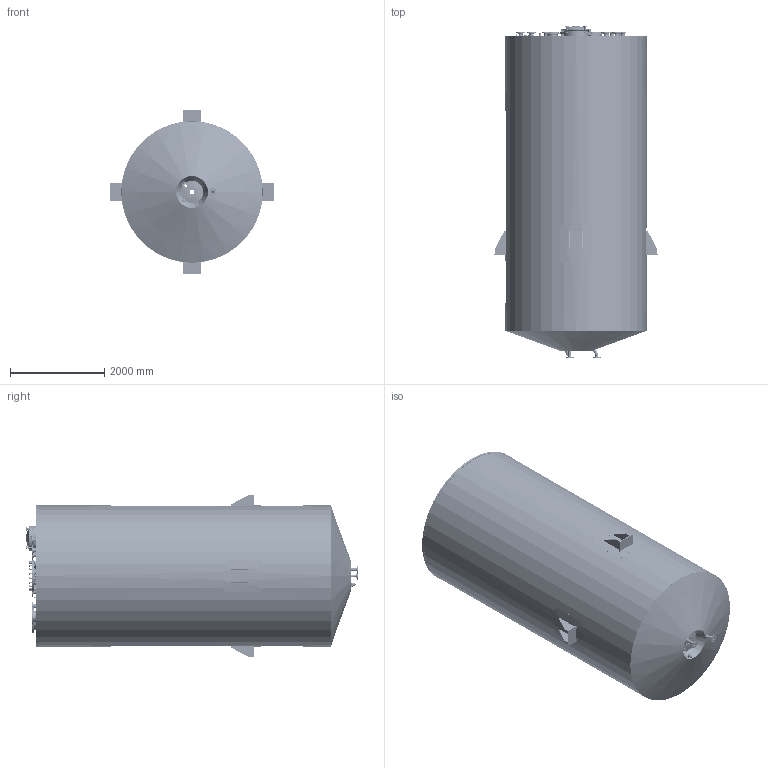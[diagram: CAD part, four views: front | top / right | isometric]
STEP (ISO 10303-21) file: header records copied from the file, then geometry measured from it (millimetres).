
FILE_DESCRIPTION((''),'2;1');
FILE_NAME('C:\Users\bastian.wanya\Desktop\Test.stp','2012-07-23T14:16:35',(''),(''),'Autodesk Inventor 2011','Autodesk Inventor 2011','');
FILE_SCHEMA(('CONFIG_CONTROL_DESIGN'));
Length unit declared in the file: millimetre
Products named in the file (68): Behälter mit 36000l; Mantel aus Blech 6mm; Klöpperboden Ø2800x8mm_1; Klöpperboden Ø2800x8mm_2; Rohr Ø406,4x8mm aus Blech_1; Konus aus Blech 5mm; Rohr Ø88,9x4mm_1; Rohr Ø88,9x4mm_2; Rohr Ø88,9x4mm_3; Rohr Ø88,9x4mm_4; Rohr Ø60,3x2,9mm_1; Rohr Ø26,9x2,3mm_1; Rohr Ø219,1x4mm_1; Rohr Ø114,3x3,6mm_1; Rohr Ø60,3x2,9mm_2; Rohr Ø42,4x2,6mm_1; Riffelblech 5_7mm; Rohr Ø508x8mm aus Blech_1; Schauglas DN100 PN10; DIN 2576 Aufsteckbarer Flansch zum Hartlöten oder schweißen Serie 1 (ISO) - PN 10 508 1.4571; DIN 2576 Aufsteckbarer Flansch zum Hartlöten oder schweißen Serie 1 (ISO) - PN 10 406.4 1.4571; Ganze Muffe DN25 1Zoll-16; Ganze Muffe DN15 1_2Zoll-14; DIN 2633 schweißhalsflansch Typ C Serie 1 (ISO) - PN 16 50 x 60.3 1.4571; DIN 2633 schweißhalsflansch Typ C Serie 1 (ISO) - PN 16 80 x 88.9 1.4571; DIN 2632 schweißhalsflansch Typ C Serie 1 (ISO) - PN 10 200 x 219.1 1.4571; DIN 2633 schweißhalsflansch Typ C Serie 1 (ISO) - PN 16 100 x 114.3 1.4571; Mannloch DN500 PN -1_+1; Blockflansch DN100 PN16-103; Wiederstandstermometer Form D; Halbrohrschlange Ø88,9x3mm; Deckel aus Blech 3mm_1; Deckel aus Blech 3mm_2; Rohr Ø60,3x2,9mm_3; Rohr Ø60,3x2,9mm_4; DIN 2633 schweißhalsflansch Typ C Serie 1 (ISO) - PN 16 50 x 60.3 1.4301; Konus aus Blech 2mm_1; DIN 2605 45 Grad Schenkelrohrtyp 3 60.3 - 2.9S 1.4301_1; Knotenblech 20mm_1; ISO 7483 Non-metalic Flat Gasket Inside Bolt Circle - PN 10-DN500-3 PTFE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
Assembly tree (170 placements, depth 3):
  Behälter mit 36000l
    Mantel aus Blech 6mm
    Klöpperboden Ø2800x8mm_1
    Klöpperboden Ø2800x8mm_2
    Rohr Ø406,4x8mm aus Blech_1
    Konus aus Blech 5mm
    Rohr Ø88,9x4mm_1
    Rohr Ø88,9x4mm_2
    Rohr Ø88,9x4mm_3
    Rohr Ø88,9x4mm_4
    Rohr Ø60,3x2,9mm_1
    Rohr Ø26,9x2,3mm_1
    Rohr Ø219,1x4mm_1
    Rohr Ø114,3x3,6mm_1
    Rohr Ø60,3x2,9mm_2
    Rohr Ø42,4x2,6mm_1
    Riffelblech 5_7mm
    Rohr Ø508x8mm aus Blech_1
    Schauglas DN100 PN10
    DIN 2576 Aufsteckbarer Flansch zum Hartlöten oder schweißen Serie 1 (ISO) - PN 10 508 1.4571
    DIN 2576 Aufsteckbarer Flansch zum Hartlöten oder schweißen Serie 1 (ISO) - PN 10 406.4 1.4571
    Ganze Muffe DN25 1Zoll-16
    Ganze Muffe DN15 1_2Zoll-14
    DIN 2633 schweißhalsflansch Typ C Serie 1 (ISO) - PN 16 50 x 60.3 1.4571  x2
    DIN 2633 schweißhalsflansch Typ C Serie 1 (ISO) - PN 16 80 x 88.9 1.4571  x6
    DIN 2632 schweißhalsflansch Typ C Serie 1 (ISO) - PN 10 200 x 219.1 1.4571
    DIN 2633 schweißhalsflansch Typ C Serie 1 (ISO) - PN 16 100 x 114.3 1.4571
    Mannloch DN500 PN -1_+1
    Blockflansch DN100 PN16-103
    Wiederstandstermometer Form D
    Halbrohrschlange Ø88,9x3mm
    Deckel aus Blech 3mm_1
    Deckel aus Blech 3mm_2
    Rohr Ø60,3x2,9mm_3
    Rohr Ø60,3x2,9mm_4
    DIN 2633 schweißhalsflansch Typ C Serie 1 (ISO) - PN 16 50 x 60.3 1.4301
    Konus aus Blech 2mm_1
    DIN 2605 45 Grad Schenkelrohrtyp 3 60.3 - 2.9S 1.4301_1
    Knotenblech 20mm_1  x4
    ISO 7483 Non-metalic Flat Gasket Inside Bolt Circle - PN 10-DN500-3 PTFE
    Schraubenverbindung
      DIN 931-1 - ersetzt durch DIN EN 24014 M24 x 120  x20
      DIN 125-1 A A 25  x20
      DIN 934 - ersetzt durch DIN EN 24032/28673/28674 M24  x20
    Rohr Ø88,9x4mm_5
    DIN 2616 Konzentrisches Reduzierstück (K) 88.9 x 3.2 - 60.3 x 2.9 1.4571_1
    Ring aus Rohr Ø60,3x2,9mm_1
    Rohr Ø88,9x4mm_6
    Ring aus Rohr Ø60,3x2,9mm_2
    DIN 2616 Konzentrisches Reduzierstück (K) 88.9 x 3.2 - 60.3 x 2.9 1.4571_2
    Ring aus Flach 50x5mm_1
    Pratze  x4
      Verstärkungsblech xxmm_1
      Auflageblech xxmm_1
      Knotenblech xxmm_2
      Knotenblech xxmm_1
      Blende aus Blech 2mm
    Nippel DIN2982 3-4  x8
    Vollstrahldüse VSM-90  x16
    Deckel aus Blech 2mm_1  x4
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Bounding box: 3476 x 7057.94 x 3476 mm (x, y, z)
Volume: 807837307.5 mm3; surface area: 392920876.5 mm2
Topology: 259 solids, 259 shells, 3991 faces, 8662 edges, 5312 vertices
Faces by surface type: plane 1315, bspline 896, cylinder 857, cone 603, torus 182, sphere 138
Full cylindrical faces by diameter (mm): 1.7 x18, 5 x4, 6.8 x4, 8 x3, 10.106 x4, 10.8 x9, 11.8 x4, 12 x14, 12.1 x8, 12.2 x1, 12.25 x4, 12.5 x4, 13.835 x24, 16 x8, 18 x81, 18.631 x1, 20 x12, 20.752 x20, 21.6 x16, 22 x20, 22.3 x2, 23 x4, 24 x22, 25 x45, 26 x36, 26.441 x16, 26.9 x34, 27.9 x4, 28 x1, 30 x4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
Entity records: 217635 total; most frequent: CARTESIAN_POINT 159307, DIRECTION 11028, ORIENTED_EDGE 10416, EDGE_CURVE 5208, AXIS2_PLACEMENT_3D 4996, EDGE_LOOP 3966, VERTEX_POINT 3506, CIRCLE 2851
